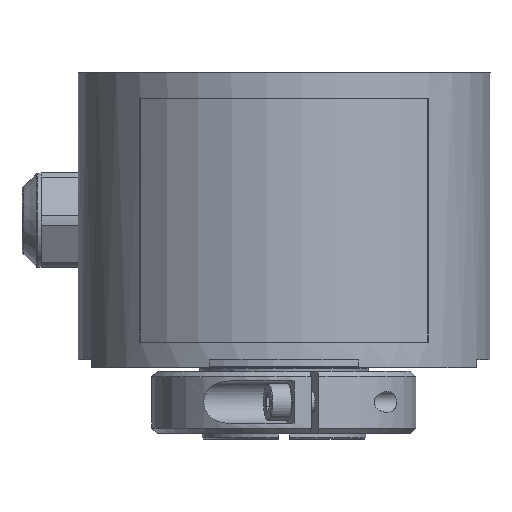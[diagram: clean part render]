
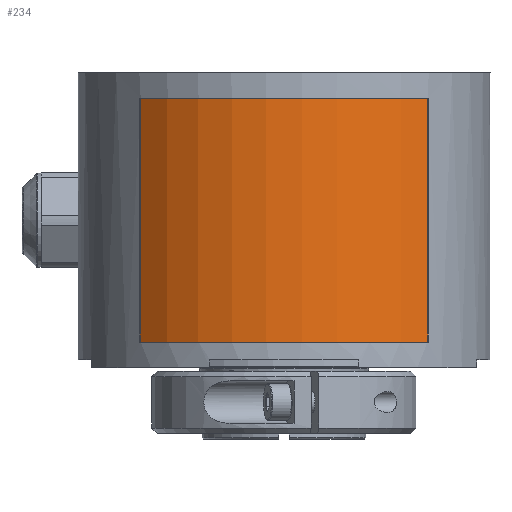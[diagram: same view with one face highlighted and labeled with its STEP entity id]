
A CAD part, front view. The second image highlights one B-rep face of the part: STEP entity #234.
In plain terms, the highlighted cylindrical face has radius 39.2 mm (diameter 78.4 mm), a partial arc.
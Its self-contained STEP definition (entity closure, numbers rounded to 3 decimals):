
#152 = EDGE_LOOP ( 'NONE', ( #215, #217, #305, #230 ) ) ;
#186 = VERTEX_POINT ( 'NONE', #3067 ) ;
#200 = EDGE_CURVE ( 'NONE', #216, #212, #3120, .T. ) ;
#203 = EDGE_CURVE ( 'NONE', #186, #206, #3081, .T. ) ;
#206 = VERTEX_POINT ( 'NONE', #3103 ) ;
#212 = VERTEX_POINT ( 'NONE', #3104 ) ;
#214 = EDGE_CURVE ( 'NONE', #186, #216, #3106, .T. ) ;
#215 = ORIENTED_EDGE ( 'NONE', *, *, #214, .F. ) ;
#216 = VERTEX_POINT ( 'NONE', #3176 ) ;
#217 = ORIENTED_EDGE ( 'NONE', *, *, #203, .T. ) ;
#230 = ORIENTED_EDGE ( 'NONE', *, *, #200, .F. ) ;
#234 = ADVANCED_FACE ( 'NONE', ( #3133 ), #3239, .T. ) ;
#305 = ORIENTED_EDGE ( 'NONE', *, *, #1060, .T. ) ;
#1060 = EDGE_CURVE ( 'NONE', #206, #212, #6239, .T. ) ;
#3067 = CARTESIAN_POINT ( 'NONE',  ( 26.154, -33.101, 42.312 ) ) ;
#3081 = CIRCLE ( 'NONE', #3112, 39.2 ) ;
#3101 = DIRECTION ( 'NONE',  ( -1., 0., 0. ) ) ;
#3102 = DIRECTION ( 'NONE',  ( 0., 0., -1. ) ) ;
#3103 = CARTESIAN_POINT ( 'NONE',  ( -28.308, -33.101, 42.312 ) ) ;
#3104 = CARTESIAN_POINT ( 'NONE',  ( -28.308, -33.101, -3.688 ) ) ;
#3106 = LINE ( 'NONE', #3151, #3172 ) ;
#3112 = AXIS2_PLACEMENT_3D ( 'NONE', #3115, #3102, #3101 ) ;
#3113 = DIRECTION ( 'NONE',  ( -1., 0., 0. ) ) ;
#3115 = CARTESIAN_POINT ( 'NONE',  ( -1.077, -4.903, 42.312 ) ) ;
#3117 = CARTESIAN_POINT ( 'NONE',  ( -1.077, -4.903, -3.688 ) ) ;
#3118 = DIRECTION ( 'NONE',  ( 0., 0., -1. ) ) ;
#3120 = CIRCLE ( 'NONE', #3121, 39.2 ) ;
#3121 = AXIS2_PLACEMENT_3D ( 'NONE', #3117, #3118, #3113 ) ;
#3133 = FACE_OUTER_BOUND ( 'NONE', #152, .T. ) ;
#3151 = CARTESIAN_POINT ( 'NONE',  ( 26.154, -33.101, 42.312 ) ) ;
#3171 = DIRECTION ( 'NONE',  ( 0., 0., -1. ) ) ;
#3172 = VECTOR ( 'NONE', #3171, 1000. ) ;
#3176 = CARTESIAN_POINT ( 'NONE',  ( 26.154, -33.101, -3.688 ) ) ;
#3235 = DIRECTION ( 'NONE',  ( -1., 0., 0. ) ) ;
#3236 = DIRECTION ( 'NONE',  ( 0., 0., -1. ) ) ;
#3237 = CARTESIAN_POINT ( 'NONE',  ( -1.077, -4.903, 29.159 ) ) ;
#3238 = AXIS2_PLACEMENT_3D ( 'NONE', #3237, #3236, #3235 ) ;
#3239 = CYLINDRICAL_SURFACE ( 'NONE', #3238, 39.2 ) ;
#6229 = DIRECTION ( 'NONE',  ( 0., 0., -1. ) ) ;
#6230 = VECTOR ( 'NONE', #6229, 1000. ) ;
#6238 = CARTESIAN_POINT ( 'NONE',  ( -28.308, -33.101, 42.312 ) ) ;
#6239 = LINE ( 'NONE', #6238, #6230 ) ;
